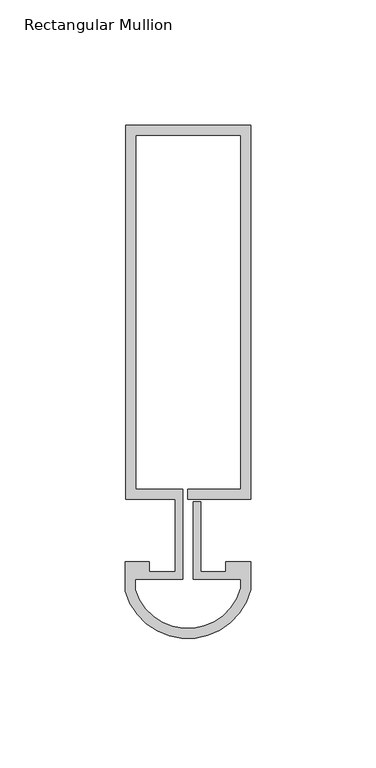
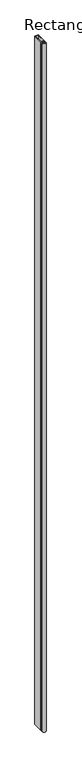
"""IFC4 building model written with IfcOpenShell, lengths in millimetres: member geometry, Rectangular Mullion : Reynaers_CW-50_Mullion-Transom_Vertical_149.5mm_Facecap-07."""

from ifc_helpers import new_model, si_unit, point, frame, frame_2d, origin, place, context, project, spatial, polyline, circle_curve, trimmed, segment, composite_curve, outline, extrude, source, transform, mapped, element, save


def rectangular_mullion_2c83495f(model_context):
    return source(origin(), model_context, "Body", "SweptSolid", [
        extrude(outline(composite_curve([segment(polyline([(-24.8004059, 162.0), (25.1995941, 162.0), (25.1995941, 12.5), (0.0, 12.5), (0.0, 16.5), (21.1995941, 16.5), (21.1995941, 158.0), (-20.8004059, 158.0), (-20.8004059, 16.5), (-1.9004059, 16.5), (-1.9004059, -19.5), (-20.994845, -19.5), (-20.994845, -23.684232)]), True, "CONTINUOUS"), segment(trimmed(circle_curve(frame_2d((0.0217873, -17.1383151)), 22.0124479), [point((-20.994845, -23.684232))], [point((21.1995941, -23.1423436))], True, "CARTESIAN"), True, "CONTINUOUS"), segment(polyline([(21.1995941, -23.1423436), (21.1995941, -19.5), (2.2995941, -19.5), (2.2995941, 11.5), (5.2995941, 11.5), (5.2995941, -16.5), (15.2996495, -16.5), (15.2996495, -12.5), (25.1995941, -12.5), (25.1995941, -23.6747887)]), True, "CONTINUOUS"), segment(trimmed(circle_curve(frame_2d((0.0217873, -17.1383151)), 26.0124479), [point((25.1995941, -23.6747887))], [point((-24.994845, -24.2668179))], False, "CARTESIAN"), True, "CONTINUOUS"), segment(polyline([(-24.994845, -24.2668179), (-24.994845, -12.5), (-15.2996495, -12.5), (-15.2996495, -16.5), (-4.9004059, -16.5), (-4.9004059, 12.5), (-24.8004059, 12.5), (-24.8004059, 162.0)]), True, "CONTINUOUS")], self_intersect=False)), frame((0.0, 0.0, -10400.0), z_axis=(0.0, 0.0, 1.0), x_axis=(1.0, 0.0, 0.0)), (0.0, 0.0, 1.0), 10400.0),
    ])


if __name__ == "__main__":
    model = new_model("IFC4")
    model_context = context("Model", 3, world=origin())
    ifc_project = project(units=[si_unit("LENGTHUNIT", "METRE", prefix="MILLI")], contexts=[model_context])
    site = spatial("IfcSite", under=ifc_project)
    building = spatial("IfcBuilding", under=site)
    placement = place(None, origin())
    rectangular_mullion_shape = rectangular_mullion_2c83495f(model_context)
    element("IfcMember", 1, ObjectType="Rectangular Mullion : Reynaers_CW-50_Mullion-Transom_Vertical_149.5mm_Facecap-07", at=placement, inside=building, context=model_context, shape_type="MappedRepresentation", body=[
        mapped(rectangular_mullion_shape, transform((0.0, 0.0, 0.0), x_axis=(1.0, 0.0, 0.0), y_axis=(0.0, 1.0, 0.0), z_axis=(0.0, 0.0, 1.0))),
    ])
    save(model, "model.ifc")
